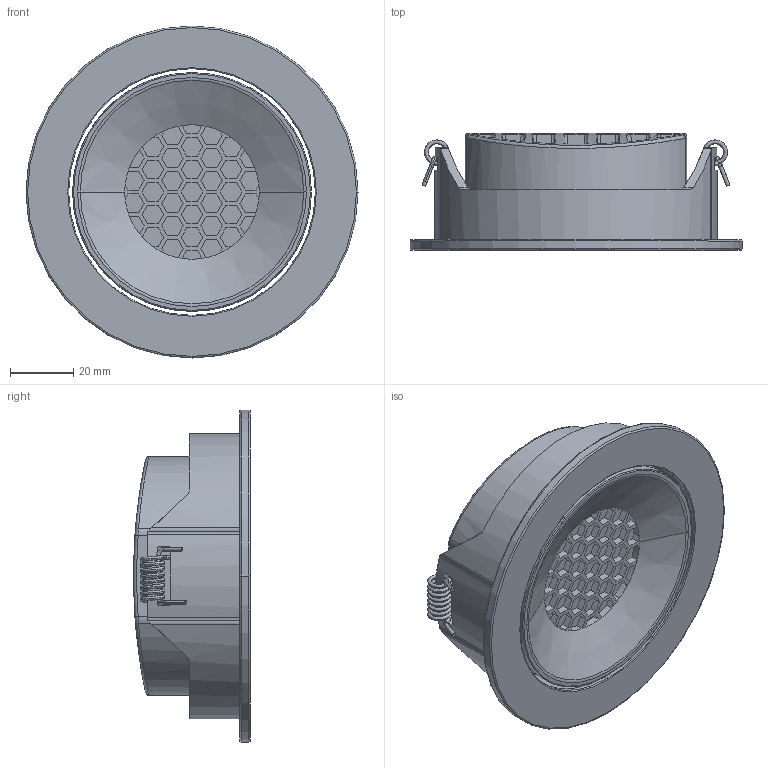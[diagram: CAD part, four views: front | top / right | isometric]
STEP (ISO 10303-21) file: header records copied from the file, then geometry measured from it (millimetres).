
FILE_DESCRIPTION((''),'2;1');
FILE_NAME('ASM0001_ASM','2026-06-27T17:12:59',('Administrator'),(''),'CREO PARAMETRIC BY PTC INC, 2021164','CREO PARAMETRIC BY PTC INC, 2021164','');
FILE_SCHEMA(('CONFIG_CONTROL_DESIGN','SHAPE_APPEARANCE_LAYERS_GROUPS'));
Length unit declared in the file: millimetre
Products named in the file (6): PRT0004; PRT0002; PRT0005; PRT0003; PRT0001; ASM0001_ASM
Assembly tree (6 placements, depth 2):
  ASM0001_ASM
    PRT0004
    PRT0002
    PRT0005
    PRT0003
    PRT0001  x2
Bounding box: 105 x 36.99 x 105 mm (x, y, z)
Volume: 133308.9 mm3; surface area: 67279 mm2
Topology: 8 solids, 8 shells, 640 faces, 1668 edges, 1044 vertices
Faces by surface type: plane 309, cylinder 147, bspline 142, torus 26, cone 16
Entity records: 36097 total; most frequent: CARTESIAN_POINT 13084, ORIENTED_EDGE 3220, DIRECTION 2508, PRESENTATION_STYLE_ASSIGNMENT 2136, STYLED_ITEM 2136, EDGE_CURVE 1610, CURVE_STYLE 1552, VERTEX_POINT 1012
